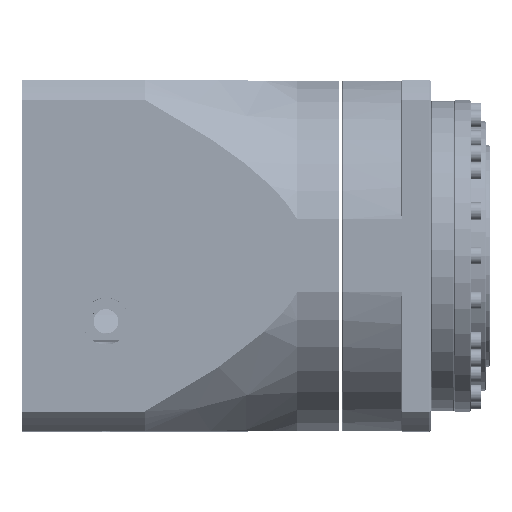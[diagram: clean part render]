
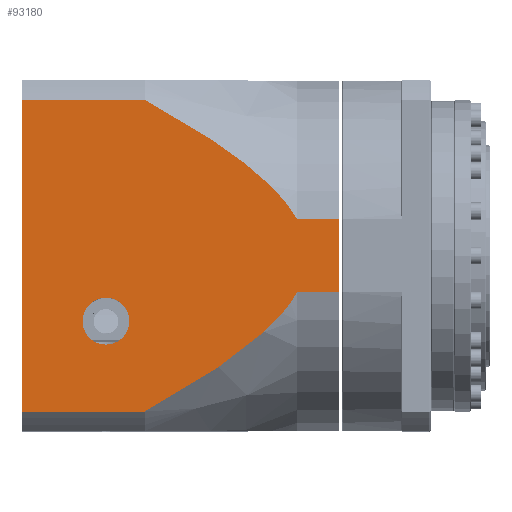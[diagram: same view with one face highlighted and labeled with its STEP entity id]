
A CAD part, top view. The second image highlights one B-rep face of the part: STEP entity #93180.
In plain terms, the highlighted planar face has unit normal (0, 0, 1).
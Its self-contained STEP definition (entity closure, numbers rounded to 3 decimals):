
#953 = B_SPLINE_CURVE_WITH_KNOTS ( 'NONE', 3,
 ( #6159, #6146, #6149, #6162, #6165, #6168, #6171, #6174, #6176, #6178, #6181, #6184, #6187, #6190, #6193, #6195, #6197, #6200, #6203, #6206, #6209, #6212 ),
 .UNSPECIFIED., .F., .F.,
 ( 4, 2, 2, 2, 2, 2, 2, 2, 2, 2, 4 ),
 ( 0.273, 0.278, 0.281, 0.283, 0.288, 0.293, 0.302, 0.312, 0.322, 0.331, 0.351 ),
 .UNSPECIFIED. ) ;
#6146 = CARTESIAN_POINT ( 'NONE',  ( -57.308, 16.124, 71. ) ) ;
#6149 = CARTESIAN_POINT ( 'NONE',  ( -58.201, 17.525, 71. ) ) ;
#6159 = CARTESIAN_POINT ( 'NONE',  ( -56.5, 14.671, 71. ) ) ;
#6162 = CARTESIAN_POINT ( 'NONE',  ( -59.642, 19.565, 71. ) ) ;
#6165 = CARTESIAN_POINT ( 'NONE',  ( -60.139, 20.235, 71. ) ) ;
#6168 = CARTESIAN_POINT ( 'NONE',  ( -61.164, 21.557, 71. ) ) ;
#6171 = CARTESIAN_POINT ( 'NONE',  ( -61.693, 22.209, 71. ) ) ;
#6174 = CARTESIAN_POINT ( 'NONE',  ( -63.306, 24.126, 71. ) ) ;
#6176 = CARTESIAN_POINT ( 'NONE',  ( -64.423, 25.357, 71. ) ) ;
#6178 = CARTESIAN_POINT ( 'NONE',  ( -66.72, 27.744, 71. ) ) ;
#6181 = CARTESIAN_POINT ( 'NONE',  ( -67.9, 28.9, 71. ) ) ;
#6184 = CARTESIAN_POINT ( 'NONE',  ( -71.517, 32.279, 71. ) ) ;
#6187 = CARTESIAN_POINT ( 'NONE',  ( -74.028, 34.415, 71. ) ) ;
#6190 = CARTESIAN_POINT ( 'NONE',  ( -79.188, 38.525, 71. ) ) ;
#6193 = CARTESIAN_POINT ( 'NONE',  ( -81.838, 40.5, 71. ) ) ;
#6195 = CARTESIAN_POINT ( 'NONE',  ( -87.236, 44.331, 71. ) ) ;
#6197 = CARTESIAN_POINT ( 'NONE',  ( -89.99, 46.19, 71. ) ) ;
#6200 = CARTESIAN_POINT ( 'NONE',  ( -95.545, 49.8, 71. ) ) ;
#6203 = CARTESIAN_POINT ( 'NONE',  ( -98.348, 51.553, 71. ) ) ;
#6206 = CARTESIAN_POINT ( 'NONE',  ( -106.818, 56.69, 71. ) ) ;
#6209 = CARTESIAN_POINT ( 'NONE',  ( -112.543, 59.955, 71. ) ) ;
#6212 = CARTESIAN_POINT ( 'NONE',  ( -118.318, 63.119, 71. ) ) ;
#8207 = CARTESIAN_POINT ( 'NONE',  ( -39.5, 71., 71. ) ) ;
#8210 = DIRECTION ( 'NONE',  ( 0., -1., 0. ) ) ;
#8348 = CARTESIAN_POINT ( 'NONE',  ( -168., 71., 71. ) ) ;
#8351 = DIRECTION ( 'NONE',  ( 0., -1., 0. ) ) ;
#9305 = CARTESIAN_POINT ( 'NONE',  ( -39.5, 63.119, 71. ) ) ;
#9307 = DIRECTION ( 'NONE',  ( -1., 0., 0. ) ) ;
#9475 = CARTESIAN_POINT ( 'NONE',  ( -134., -26.5, 71. ) ) ;
#9476 = DIRECTION ( 'NONE',  ( 0., 0., 1. ) ) ;
#9478 = DIRECTION ( 'NONE',  ( -1., 0., 0. ) ) ;
#9496 = CARTESIAN_POINT ( 'NONE',  ( -112.607, -59.99, 71. ) ) ;
#9498 = CARTESIAN_POINT ( 'NONE',  ( -106.946, -56.762, 71. ) ) ;
#9505 = CARTESIAN_POINT ( 'NONE',  ( -118.318, -63.119, 71. ) ) ;
#9506 = CARTESIAN_POINT ( 'NONE',  ( -98.571, -51.69, 71. ) ) ;
#9508 = CARTESIAN_POINT ( 'NONE',  ( -95.8, -49.961, 71. ) ) ;
#9510 = CARTESIAN_POINT ( 'NONE',  ( -90.308, -46.401, 71. ) ) ;
#9511 = CARTESIAN_POINT ( 'NONE',  ( -87.587, -44.571, 71. ) ) ;
#9513 = CARTESIAN_POINT ( 'NONE',  ( -82.215, -40.776, 71. ) ) ;
#9515 = CARTESIAN_POINT ( 'NONE',  ( -79.564, -38.811, 71. ) ) ;
#9516 = CARTESIAN_POINT ( 'NONE',  ( -74.358, -34.689, 71. ) ) ;
#9518 = CARTESIAN_POINT ( 'NONE',  ( -71.802, -32.532, 71. ) ) ;
#9520 = CARTESIAN_POINT ( 'NONE',  ( -66.846, -27.927, 71. ) ) ;
#9521 = CARTESIAN_POINT ( 'NONE',  ( -64.488, -25.52, 71. ) ) ;
#9523 = CARTESIAN_POINT ( 'NONE',  ( -61.231, -21.665, 71. ) ) ;
#9525 = CARTESIAN_POINT ( 'NONE',  ( -60.192, -20.339, 71. ) ) ;
#9526 = CARTESIAN_POINT ( 'NONE',  ( -58.726, -18.27, 71. ) ) ;
#9528 = CARTESIAN_POINT ( 'NONE',  ( -58.251, -17.566, 71. ) ) ;
#9530 = CARTESIAN_POINT ( 'NONE',  ( -57.343, -16.134, 71. ) ) ;
#9531 = CARTESIAN_POINT ( 'NONE',  ( -56.91, -15.408, 71. ) ) ;
#9533 = CARTESIAN_POINT ( 'NONE',  ( -56.5, -14.671, 71. ) ) ;
#9988 = LINE ( 'NONE', #9305, #9993 ) ;
#9993 = VECTOR ( 'NONE', #9307, 1000. ) ;
#10072 = CIRCLE ( 'NONE', #12046, 9.5 ) ;
#11066 = LINE ( 'NONE', #16068, #11070 ) ;
#11070 = VECTOR ( 'NONE', #16069, 1000. ) ;
#11105 = LINE ( 'NONE', #16104, #11107 ) ;
#11107 = VECTOR ( 'NONE', #16115, 1000. ) ;
#11623 = LINE ( 'NONE', #16739, #11625 ) ;
#11625 = VECTOR ( 'NONE', #16740, 1000. ) ;
#12046 = AXIS2_PLACEMENT_3D ( 'NONE', #9475, #9476, #9478 ) ;
#15003 = AXIS2_PLACEMENT_3D ( 'NONE', #32983, #32999, #33001 ) ;
#16068 = CARTESIAN_POINT ( 'NONE',  ( -56.5, 14.671, 71. ) ) ;
#16069 = DIRECTION ( 'NONE',  ( -1., 0., 0. ) ) ;
#16104 = CARTESIAN_POINT ( 'NONE',  ( -56.5, -14.671, 71. ) ) ;
#16115 = DIRECTION ( 'NONE',  ( 1., 0., 0. ) ) ;
#16739 = CARTESIAN_POINT ( 'NONE',  ( -39.5, -63.119, 71. ) ) ;
#16740 = DIRECTION ( 'NONE',  ( 1., 0., 0. ) ) ;
#16782 = CARTESIAN_POINT ( 'NONE',  ( -168., 63.119, 71. ) ) ;
#16800 = CARTESIAN_POINT ( 'NONE',  ( -39.5, -14.671, 71. ) ) ;
#16817 = CARTESIAN_POINT ( 'NONE',  ( -118.318, 63.119, 71. ) ) ;
#16910 = CARTESIAN_POINT ( 'NONE',  ( -168., -63.119, 71. ) ) ;
#24975 = EDGE_LOOP ( 'NONE', ( #51469, #51825 ) ) ;
#25043 = EDGE_LOOP ( 'NONE', ( #51389, #51893, #51959, #51543, #51590, #51706, #51803, #51527 ) ) ;
#26789 = CARTESIAN_POINT ( 'NONE',  ( -134., -36., 71. ) ) ;
#26837 = CARTESIAN_POINT ( 'NONE',  ( -56.5, -14.671, 71. ) ) ;
#26925 = CARTESIAN_POINT ( 'NONE',  ( -134., -17., 71. ) ) ;
#27001 = CARTESIAN_POINT ( 'NONE',  ( -118.318, -63.119, 71. ) ) ;
#27026 = CARTESIAN_POINT ( 'NONE',  ( -39.5, 14.671, 71. ) ) ;
#27066 = CARTESIAN_POINT ( 'NONE',  ( -56.5, 14.671, 71. ) ) ;
#32983 = CARTESIAN_POINT ( 'NONE',  ( -168., 71., 71. ) ) ;
#32996 = PLANE ( 'NONE',  #15003 ) ;
#32999 = DIRECTION ( 'NONE',  ( 0., 0., 1. ) ) ;
#33001 = DIRECTION ( 'NONE',  ( 0., -1., 0. ) ) ;
#34010 = FACE_BOUND ( 'NONE', #24975, .T. ) ;
#34015 = FACE_OUTER_BOUND ( 'NONE', #25043, .T. ) ;
#39499 = EDGE_CURVE ( 'NONE', #89246, #89164, #78483, .T. ) ;
#51389 = ORIENTED_EDGE ( 'NONE', *, *, #60638, .T. ) ;
#51469 = ORIENTED_EDGE ( 'NONE', *, *, #60633, .F. ) ;
#51527 = ORIENTED_EDGE ( 'NONE', *, *, #61207, .T. ) ;
#51543 = ORIENTED_EDGE ( 'NONE', *, *, #60987, .T. ) ;
#51590 = ORIENTED_EDGE ( 'NONE', *, *, #60373, .T. ) ;
#51706 = ORIENTED_EDGE ( 'NONE', *, *, #60601, .T. ) ;
#51803 = ORIENTED_EDGE ( 'NONE', *, *, #60441, .T. ) ;
#51825 = ORIENTED_EDGE ( 'NONE', *, *, #39499, .F. ) ;
#51893 = ORIENTED_EDGE ( 'NONE', *, *, #61007, .T. ) ;
#51959 = ORIENTED_EDGE ( 'NONE', *, *, #60416, .F. ) ;
#60373 = EDGE_CURVE ( 'NONE', #89329, #63396, #953, .T. ) ;
#60416 = EDGE_CURVE ( 'NONE', #89306, #63319, #104307, .T. ) ;
#60441 = EDGE_CURVE ( 'NONE', #63193, #63985, #104381, .T. ) ;
#60601 = EDGE_CURVE ( 'NONE', #63396, #63193, #9988, .T. ) ;
#60633 = EDGE_CURVE ( 'NONE', #89164, #89246, #10072, .T. ) ;
#60638 = EDGE_CURVE ( 'NONE', #89291, #89193, #104355, .T. ) ;
#60987 = EDGE_CURVE ( 'NONE', #89306, #89329, #11066, .T. ) ;
#61007 = EDGE_CURVE ( 'NONE', #89193, #63319, #11105, .T. ) ;
#61207 = EDGE_CURVE ( 'NONE', #63985, #89291, #11623, .T. ) ;
#63193 = VERTEX_POINT ( 'NONE', #16782 ) ;
#63319 = VERTEX_POINT ( 'NONE', #16800 ) ;
#63396 = VERTEX_POINT ( 'NONE', #16817 ) ;
#63985 = VERTEX_POINT ( 'NONE', #16910 ) ;
#69703 = AXIS2_PLACEMENT_3D ( 'NONE', #80533, #80534, #80535 ) ;
#78483 = CIRCLE ( 'NONE', #69703, 9.5 ) ;
#80533 = CARTESIAN_POINT ( 'NONE',  ( -134., -26.5, 71. ) ) ;
#80534 = DIRECTION ( 'NONE',  ( 0., 0., 1. ) ) ;
#80535 = DIRECTION ( 'NONE',  ( -1., 0., 0. ) ) ;
#89164 = VERTEX_POINT ( 'NONE', #26789 ) ;
#89193 = VERTEX_POINT ( 'NONE', #26837 ) ;
#89246 = VERTEX_POINT ( 'NONE', #26925 ) ;
#89291 = VERTEX_POINT ( 'NONE', #27001 ) ;
#89306 = VERTEX_POINT ( 'NONE', #27026 ) ;
#89329 = VERTEX_POINT ( 'NONE', #27066 ) ;
#93180 = ADVANCED_FACE ( 'NONE', ( #34010, #34015 ), #32996, .T. ) ;
#104307 = LINE ( 'NONE', #8207, #104313 ) ;
#104313 = VECTOR ( 'NONE', #8210, 1000. ) ;
#104355 = B_SPLINE_CURVE_WITH_KNOTS ( 'NONE', 3,
 ( #9505, #9496, #9498, #9506, #9508, #9510, #9511, #9513, #9515, #9516, #9518, #9520, #9521, #9523, #9525, #9526, #9528, #9530, #9531, #9533 ),
 .UNSPECIFIED., .F., .F.,
 ( 4, 2, 2, 2, 2, 2, 2, 2, 2, 4 ),
 ( 0.166, 0.185, 0.195, 0.205, 0.214, 0.224, 0.234, 0.239, 0.241, 0.244 ),
 .UNSPECIFIED. ) ;
#104381 = LINE ( 'NONE', #8348, #104388 ) ;
#104388 = VECTOR ( 'NONE', #8351, 1000. ) ;
